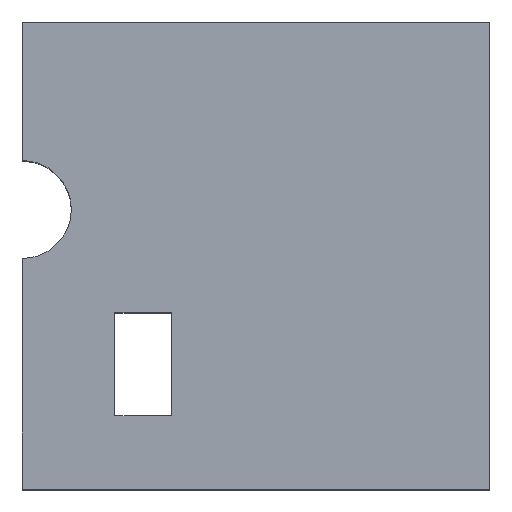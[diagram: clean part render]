
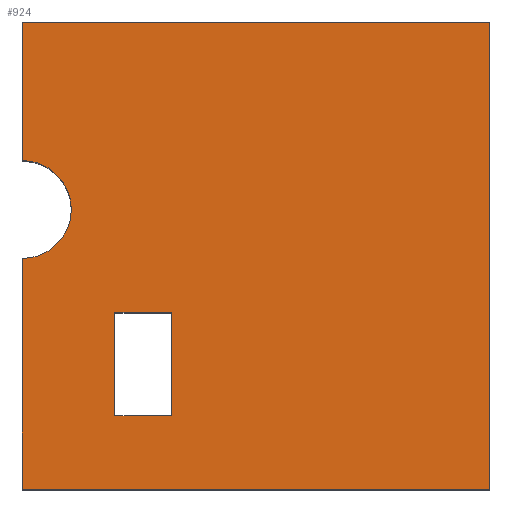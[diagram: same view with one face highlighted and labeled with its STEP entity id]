
A CAD part, top view. The second image highlights one B-rep face of the part: STEP entity #924.
In plain terms, the highlighted planar face has unit normal (0, 0, 1).
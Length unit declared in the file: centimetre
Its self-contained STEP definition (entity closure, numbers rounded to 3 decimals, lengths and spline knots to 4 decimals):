
#12 = DIRECTION ( 'NONE',  ( 1., 0., 0. ) ) ;
#19 = AXIS2_PLACEMENT_3D ( 'NONE', #549, #425, #255 ) ;
#57 = EDGE_LOOP ( 'NONE', ( #454, #259, #363, #1900, #231, #426, #308 ) ) ;
#62 = VERTEX_POINT ( 'NONE', #1000 ) ;
#69 = CARTESIAN_POINT ( 'NONE',  ( 198.0634, 378.6492, 1000. ) ) ;
#99 = LINE ( 'NONE', #1773, #497 ) ;
#109 = LINE ( 'NONE', #1797, #1116 ) ;
#147 = DIRECTION ( 'NONE',  ( 1., 0., 0. ) ) ;
#163 = DIRECTION ( 'NONE',  ( -1., 0., 0. ) ) ;
#167 = EDGE_CURVE ( 'NONE', #1898, #1190, #1176, .T. ) ;
#197 = DIRECTION ( 'NONE',  ( 1., 0., 0. ) ) ;
#229 = DIRECTION ( 'NONE',  ( 1., 0., 0. ) ) ;
#231 = ORIENTED_EDGE ( 'NONE', *, *, #1523, .T. ) ;
#237 = AXIS2_PLACEMENT_3D ( 'NONE', #473, #1064, #12 ) ;
#255 = DIRECTION ( 'NONE',  ( 1., 0., 0. ) ) ;
#259 = ORIENTED_EDGE ( 'NONE', *, *, #825, .T. ) ;
#308 = ORIENTED_EDGE ( 'NONE', *, *, #1769, .F. ) ;
#313 = LINE ( 'NONE', #747, #1084 ) ;
#363 = ORIENTED_EDGE ( 'NONE', *, *, #887, .T. ) ;
#366 = CARTESIAN_POINT ( 'NONE',  ( 318.78, 157.3525, 1000. ) ) ;
#425 = DIRECTION ( 'NONE',  ( 0., 0., 1. ) ) ;
#426 = ORIENTED_EDGE ( 'NONE', *, *, #481, .T. ) ;
#454 = ORIENTED_EDGE ( 'NONE', *, *, #167, .F. ) ;
#460 = AXIS2_PLACEMENT_3D ( 'NONE', #1806, #932, #197 ) ;
#465 = LINE ( 'NONE', #909, #1239 ) ;
#473 = CARTESIAN_POINT ( 'NONE',  ( 0., 598.6392, 1000. ) ) ;
#481 = EDGE_CURVE ( 'NONE', #1670, #1083, #1164, .T. ) ;
#486 = DIRECTION ( 'NONE',  ( 0., 1., 0. ) ) ;
#497 = VECTOR ( 'NONE', #1301, 100. ) ;
#509 = VERTEX_POINT ( 'NONE', #555 ) ;
#521 = ORIENTED_EDGE ( 'NONE', *, *, #1918, .F. ) ;
#549 = CARTESIAN_POINT ( 'NONE',  ( 0., 598.6392, 1000. ) ) ;
#555 = CARTESIAN_POINT ( 'NONE',  ( 198.0634, 157.3525, 1000. ) ) ;
#571 = CARTESIAN_POINT ( 'NONE',  ( 0., 1000., 1000. ) ) ;
#643 = EDGE_LOOP ( 'NONE', ( #1235, #1178, #521, #1404 ) ) ;
#715 = CARTESIAN_POINT ( 'NONE',  ( 0., 1000., 1000. ) ) ;
#747 = CARTESIAN_POINT ( 'NONE',  ( 198.0634, 157.3525, 1000. ) ) ;
#773 = VECTOR ( 'NONE', #1308, 100. ) ;
#800 = CARTESIAN_POINT ( 'NONE',  ( 0., 703.3538, 1000. ) ) ;
#825 = EDGE_CURVE ( 'NONE', #1898, #1075, #1329, .T. ) ;
#887 = EDGE_CURVE ( 'NONE', #1075, #62, #109, .T. ) ;
#899 = CARTESIAN_POINT ( 'NONE',  ( 318.78, 157.3525, 1000. ) ) ;
#902 = VERTEX_POINT ( 'NONE', #1039 ) ;
#909 = CARTESIAN_POINT ( 'NONE',  ( 0., 1000., 1000. ) ) ;
#924 = ADVANCED_FACE ( 'NONE', ( #939, #1504 ), #1536, .T. ) ;
#927 = CARTESIAN_POINT ( 'NONE',  ( 0., 493.9245, 1000. ) ) ;
#932 = DIRECTION ( 'NONE',  ( 0., 0., 1. ) ) ;
#939 = FACE_BOUND ( 'NONE', #643, .T. ) ;
#988 = VERTEX_POINT ( 'NONE', #1205 ) ;
#1000 = CARTESIAN_POINT ( 'NONE',  ( 1000., 0., 1000. ) ) ;
#1039 = CARTESIAN_POINT ( 'NONE',  ( 318.78, 378.6492, 1000. ) ) ;
#1064 = DIRECTION ( 'NONE',  ( 0., 0., 1. ) ) ;
#1075 = VERTEX_POINT ( 'NONE', #1358 ) ;
#1083 = VERTEX_POINT ( 'NONE', #800 ) ;
#1084 = VECTOR ( 'NONE', #147, 100. ) ;
#1116 = VECTOR ( 'NONE', #229, 100. ) ;
#1138 = VERTEX_POINT ( 'NONE', #366 ) ;
#1147 = CARTESIAN_POINT ( 'NONE',  ( 0., 1000., 1000. ) ) ;
#1164 = LINE ( 'NONE', #715, #773 ) ;
#1176 = CIRCLE ( 'NONE', #237, 104.7147 ) ;
#1178 = ORIENTED_EDGE ( 'NONE', *, *, #1883, .F. ) ;
#1190 = VERTEX_POINT ( 'NONE', #1399 ) ;
#1205 = CARTESIAN_POINT ( 'NONE',  ( 1000., 1000., 1000. ) ) ;
#1207 = VERTEX_POINT ( 'NONE', #69 ) ;
#1214 = LINE ( 'NONE', #899, #1760 ) ;
#1235 = ORIENTED_EDGE ( 'NONE', *, *, #1315, .F. ) ;
#1239 = VECTOR ( 'NONE', #163, 100. ) ;
#1242 = VECTOR ( 'NONE', #1673, 100. ) ;
#1301 = DIRECTION ( 'NONE',  ( 0., -1., 0. ) ) ;
#1308 = DIRECTION ( 'NONE',  ( 0., -1., 0. ) ) ;
#1315 = EDGE_CURVE ( 'NONE', #1207, #509, #99, .T. ) ;
#1329 = LINE ( 'NONE', #571, #1390 ) ;
#1342 = DIRECTION ( 'NONE',  ( 0., 1., 0. ) ) ;
#1358 = CARTESIAN_POINT ( 'NONE',  ( 0., 0., 1000. ) ) ;
#1364 = LINE ( 'NONE', #1680, #1242 ) ;
#1390 = VECTOR ( 'NONE', #1617, 100. ) ;
#1399 = CARTESIAN_POINT ( 'NONE',  ( 104.7147, 598.6392, 1000. ) ) ;
#1404 = ORIENTED_EDGE ( 'NONE', *, *, #1455, .F. ) ;
#1422 = EDGE_CURVE ( 'NONE', #62, #988, #1837, .T. ) ;
#1455 = EDGE_CURVE ( 'NONE', #509, #1138, #313, .T. ) ;
#1504 = FACE_OUTER_BOUND ( 'NONE', #57, .T. ) ;
#1523 = EDGE_CURVE ( 'NONE', #988, #1670, #465, .T. ) ;
#1536 = PLANE ( 'NONE',  #460 ) ;
#1617 = DIRECTION ( 'NONE',  ( 0., -1., 0. ) ) ;
#1670 = VERTEX_POINT ( 'NONE', #1147 ) ;
#1673 = DIRECTION ( 'NONE',  ( -1., 0., 0. ) ) ;
#1680 = CARTESIAN_POINT ( 'NONE',  ( 198.0634, 378.6492, 1000. ) ) ;
#1688 = VECTOR ( 'NONE', #486, 100. ) ;
#1760 = VECTOR ( 'NONE', #1342, 100. ) ;
#1769 = EDGE_CURVE ( 'NONE', #1190, #1083, #1819, .T. ) ;
#1773 = CARTESIAN_POINT ( 'NONE',  ( 198.0634, 157.3525, 1000. ) ) ;
#1797 = CARTESIAN_POINT ( 'NONE',  ( 0., 0., 1000. ) ) ;
#1806 = CARTESIAN_POINT ( 'NONE',  ( 0., 0., 1000. ) ) ;
#1819 = CIRCLE ( 'NONE', #19, 104.7147 ) ;
#1828 = CARTESIAN_POINT ( 'NONE',  ( 1000., 1000., 1000. ) ) ;
#1837 = LINE ( 'NONE', #1828, #1688 ) ;
#1883 = EDGE_CURVE ( 'NONE', #902, #1207, #1364, .T. ) ;
#1898 = VERTEX_POINT ( 'NONE', #927 ) ;
#1900 = ORIENTED_EDGE ( 'NONE', *, *, #1422, .T. ) ;
#1918 = EDGE_CURVE ( 'NONE', #1138, #902, #1214, .T. ) ;
